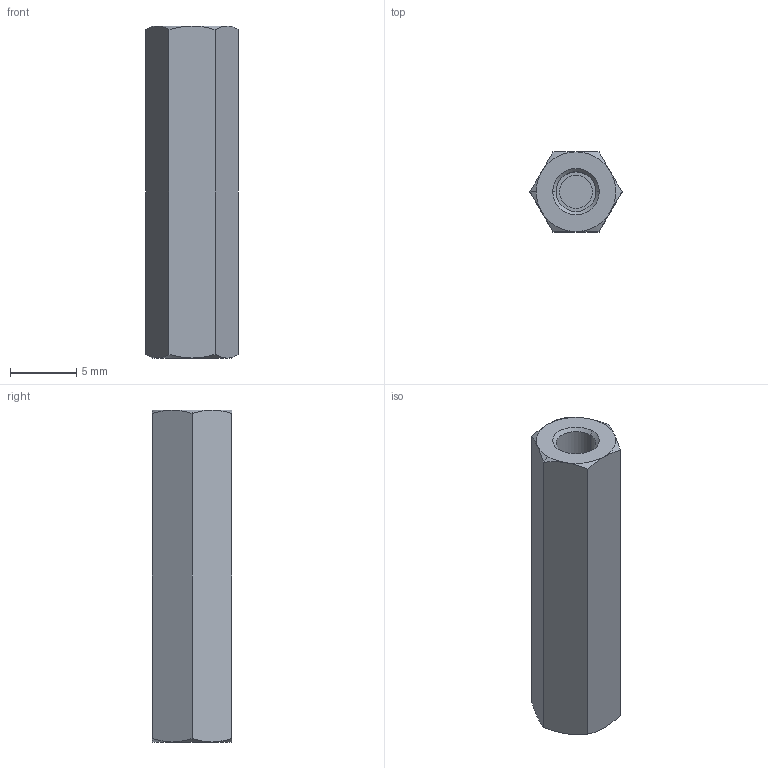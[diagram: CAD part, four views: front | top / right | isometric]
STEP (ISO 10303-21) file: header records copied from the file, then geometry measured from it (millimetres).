
FILE_DESCRIPTION (( 'STEP AP203' ), '1' );
FILE_NAME ('N0503.030-025-NP.step', '2025-02-27T14:41:33', ( '' ), ( '' ), 'SwSTEP 2.0', 'SolidWorks 2019', '' );
FILE_SCHEMA (( 'CONFIG_CONTROL_DESIGN' ));
Length unit declared in the file: millimetre
Products named in the file (1): N0503.030-025-NP
Bounding box: 6.93 x 6 x 25 mm (x, y, z)
Volume: 642.6 mm3; surface area: 767.3 mm2
Topology: 1 solids, 1 shells, 38 faces, 78 edges, 46 vertices
Faces by surface type: cone 18, plane 12, cylinder 8
Entity records: 1117 total; most frequent: CARTESIAN_POINT 259, DIRECTION 166, ORIENTED_EDGE 156, EDGE_CURVE 78, AXIS2_PLACEMENT_3D 73, VERTEX_POINT 46, EDGE_LOOP 42, FACE_OUTER_BOUND 38
